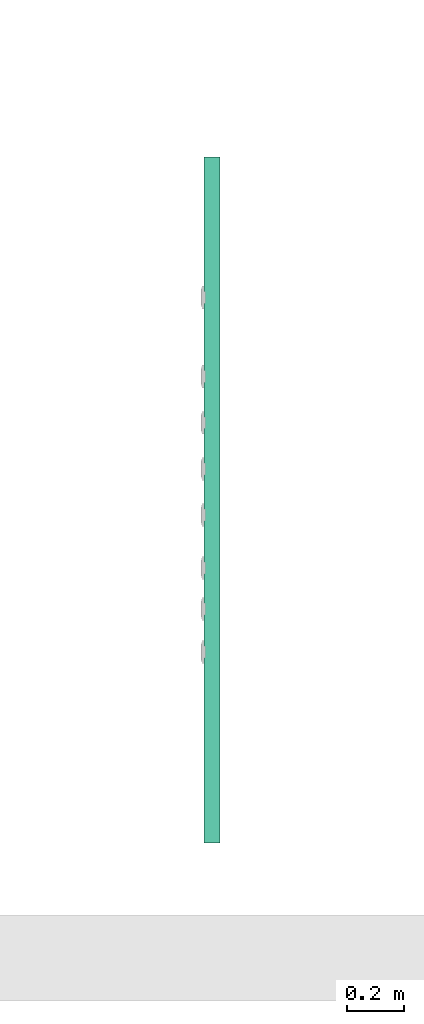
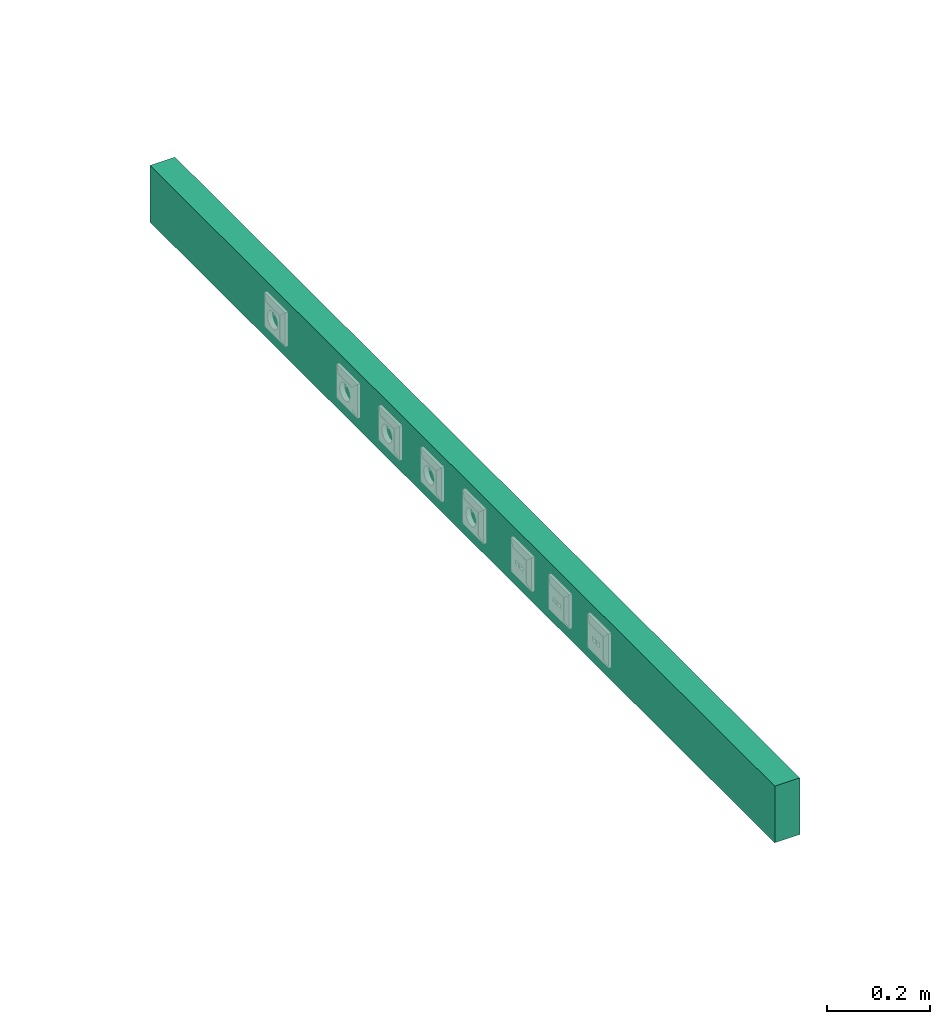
# One storey, part 7 of 166: 1 flow segment.
"""IFC2X3 building model written with IfcOpenShell, lengths in metres."""

from ifc_helpers import new_model, entity, si_unit, converted_unit, derived_unit, direction, frame, origin, origin_2d_with_axis, place, context, subcontext, project, spatial, rectangle, extrude, type_object, element, save


model = new_model("IFC2X3")

# Units and contexts
model_context = context("Model", 3, precision=1e-05, world=origin(), true_north=direction((6.12303176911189e-17, 1.0)))
body_context = subcontext(model_context, "Body", "Model", "MODEL_VIEW")
ifc_project = project(units=[si_unit("LENGTHUNIT", "METRE"), si_unit("AREAUNIT", "SQUARE_METRE"), si_unit("VOLUMEUNIT", "CUBIC_METRE"), converted_unit("PLANEANGLEUNIT", "DEGREE", entity("IfcRatioMeasure", 0.0174532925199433), si_unit("PLANEANGLEUNIT", "RADIAN"), dimensions=[0, 0, 0, 0, 0, 0, 0]), si_unit("MASSUNIT", "GRAM", prefix="KILO"), derived_unit("MASSDENSITYUNIT", [(si_unit("MASSUNIT", "GRAM", prefix="KILO"), 1), (si_unit("LENGTHUNIT", "METRE"), -3)]), si_unit("TIMEUNIT", "SECOND"), si_unit("FREQUENCYUNIT", "HERTZ"), si_unit("THERMODYNAMICTEMPERATUREUNIT", "DEGREE_CELSIUS"), derived_unit("THERMALTRANSMITTANCEUNIT", [(si_unit("MASSUNIT", "GRAM", prefix="KILO"), 1), (si_unit("THERMODYNAMICTEMPERATUREUNIT", "KELVIN"), -1), (si_unit("TIMEUNIT", "SECOND"), -3)]), derived_unit("VOLUMETRICFLOWRATEUNIT", [(si_unit("LENGTHUNIT", "METRE"), 3), (si_unit("TIMEUNIT", "SECOND"), -1)]), si_unit("ELECTRICCURRENTUNIT", "AMPERE"), si_unit("ELECTRICVOLTAGEUNIT", "VOLT"), si_unit("POWERUNIT", "WATT"), si_unit("FORCEUNIT", "NEWTON"), si_unit("ILLUMINANCEUNIT", "LUX"), si_unit("LUMINOUSFLUXUNIT", "LUMEN"), si_unit("LUMINOUSINTENSITYUNIT", "CANDELA"), derived_unit("USERDEFINED", [(si_unit("MASSUNIT", "GRAM", prefix="KILO"), -1), (si_unit("LENGTHUNIT", "METRE"), -2), (si_unit("TIMEUNIT", "SECOND"), 3), (si_unit("LUMINOUSFLUXUNIT", "LUMEN"), 1)]), derived_unit("LINEARVELOCITYUNIT", [(si_unit("LENGTHUNIT", "METRE"), 1), (si_unit("TIMEUNIT", "SECOND"), -1)]), si_unit("PRESSUREUNIT", "PASCAL"), derived_unit("USERDEFINED", [(si_unit("LENGTHUNIT", "METRE"), -2), (si_unit("MASSUNIT", "GRAM", prefix="KILO"), 1), (si_unit("TIMEUNIT", "SECOND"), -2)])], contexts=[model_context])

# Site, building, storey
site_placement = place(None, origin())
site = spatial("IfcSite", under=ifc_project, at=site_placement, Name="Default", CompositionType="ELEMENT")
building_placement = place(site_placement, origin())
building = spatial("IfcBuilding", under=site, at=building_placement, CompositionType="ELEMENT")
storey_placement = place(building_placement, frame((0.0, 0.0, 4.27)))
storey = spatial("IfcBuildingStorey", under=building, at=storey_placement, Name="01", CompositionType="ELEMENT", Elevation=4.27)

# Flow segment
cable_carrier_segment_type = type_object("IfcCableCarrierSegmentType", Name="Cable Tray with Fittings:Goulottes de câbles indéfini_Goulottes de câbles", PredefinedType="NOTDEFINED")
flow_segment_placement = place(storey_placement, origin())
element("IfcFlowSegment", 1, at=flow_segment_placement, inside=storey, type_object=cable_carrier_segment_type, Name="Cable Tray with Fittings:Goulottes de câbles indéfini_Goulottes de câbles", ObjectType="Cable Tray with Fittings:Goulottes de câbles indéfini_Goulottes de câbles", context=body_context, shape_type="SweptSolid", body=[
    extrude(rectangle(XDim=2.41899999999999, YDim=0.0559999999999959, at=origin_2d_with_axis()), frame((29.3817440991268, -186.471569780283, 0.366), z_axis=(0.0, 0.0, 1.0), x_axis=(0.0, 1.0, 0.0)), (0.0, 0.0, 1.0), 0.134),
])

save(model, "model.ifc")
